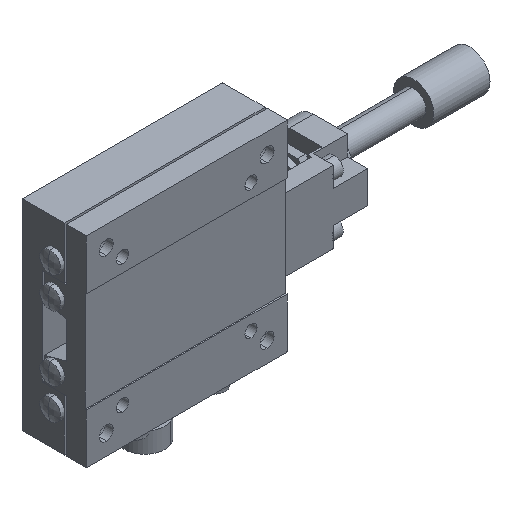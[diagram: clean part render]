
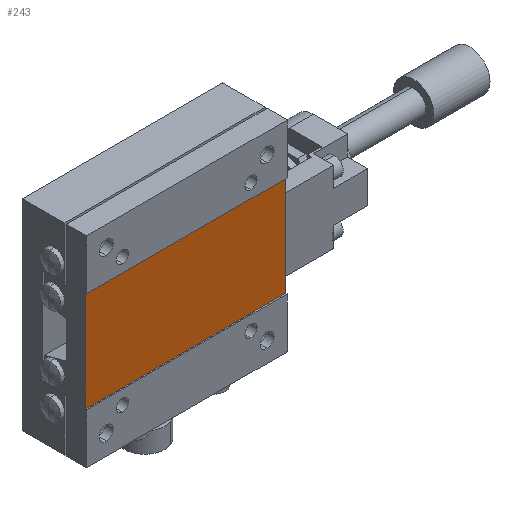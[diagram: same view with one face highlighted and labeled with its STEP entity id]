
A CAD part, isometric view. The second image highlights one B-rep face of the part: STEP entity #243.
In plain terms, the highlighted planar face has unit normal (0, -1, 0).
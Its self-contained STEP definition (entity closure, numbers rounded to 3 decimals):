
#221 = VERTEX_POINT ( 'NONE', #2654 ) ;
#240 = VERTEX_POINT ( 'NONE', #2753 ) ;
#242 = EDGE_CURVE ( 'NONE', #240, #221, #2752, .T. ) ;
#243 = ADVANCED_FACE ( 'NONE', ( #2748 ), #2747, .F. ) ;
#244 = EDGE_LOOP ( 'NONE', ( #245, #248, #249, #252 ) ) ;
#245 = ORIENTED_EDGE ( 'NONE', *, *, #246, .T. ) ;
#246 = EDGE_CURVE ( 'NONE', #247, #221, #2742, .T. ) ;
#247 = VERTEX_POINT ( 'NONE', #2738 ) ;
#248 = ORIENTED_EDGE ( 'NONE', *, *, #242, .F. ) ;
#249 = ORIENTED_EDGE ( 'NONE', *, *, #250, .F. ) ;
#250 = EDGE_CURVE ( 'NONE', #251, #240, #2737, .T. ) ;
#251 = VERTEX_POINT ( 'NONE', #2733 ) ;
#252 = ORIENTED_EDGE ( 'NONE', *, *, #253, .T. ) ;
#253 = EDGE_CURVE ( 'NONE', #251, #247, #2732, .T. ) ;
#2654 = CARTESIAN_POINT ( 'NONE',  ( -25., 0.3, -12.5 ) ) ;
#2729 = DIRECTION ( 'NONE',  ( -1., 0., 0. ) ) ;
#2730 = VECTOR ( 'NONE', #2729, 1000. ) ;
#2731 = CARTESIAN_POINT ( 'NONE',  ( 25., 0.3, 12.5 ) ) ;
#2732 = LINE ( 'NONE', #2731, #2730 ) ;
#2733 = CARTESIAN_POINT ( 'NONE',  ( 25., 0.3, 12.5 ) ) ;
#2734 = DIRECTION ( 'NONE',  ( 0., 0., -1. ) ) ;
#2735 = VECTOR ( 'NONE', #2734, 1000. ) ;
#2736 = CARTESIAN_POINT ( 'NONE',  ( 25., 0.3, -12.5 ) ) ;
#2737 = LINE ( 'NONE', #2736, #2735 ) ;
#2738 = CARTESIAN_POINT ( 'NONE',  ( -25., 0.3, 12.5 ) ) ;
#2739 = DIRECTION ( 'NONE',  ( 0., 0., -1. ) ) ;
#2740 = VECTOR ( 'NONE', #2739, 1000. ) ;
#2741 = CARTESIAN_POINT ( 'NONE',  ( -25., 0.3, -12.5 ) ) ;
#2742 = LINE ( 'NONE', #2741, #2740 ) ;
#2743 = DIRECTION ( 'NONE',  ( 0., 0., 1. ) ) ;
#2744 = DIRECTION ( 'NONE',  ( 0., 1., 0. ) ) ;
#2745 = CARTESIAN_POINT ( 'NONE',  ( 25., 0.3, -12.5 ) ) ;
#2746 = AXIS2_PLACEMENT_3D ( 'NONE', #2745, #2744, #2743 ) ;
#2747 = PLANE ( 'NONE',  #2746 ) ;
#2748 = FACE_OUTER_BOUND ( 'NONE', #244, .T. ) ;
#2749 = DIRECTION ( 'NONE',  ( -1., 0., 0. ) ) ;
#2750 = VECTOR ( 'NONE', #2749, 1000. ) ;
#2751 = CARTESIAN_POINT ( 'NONE',  ( 25., 0.3, -12.5 ) ) ;
#2752 = LINE ( 'NONE', #2751, #2750 ) ;
#2753 = CARTESIAN_POINT ( 'NONE',  ( 25., 0.3, -12.5 ) ) ;
